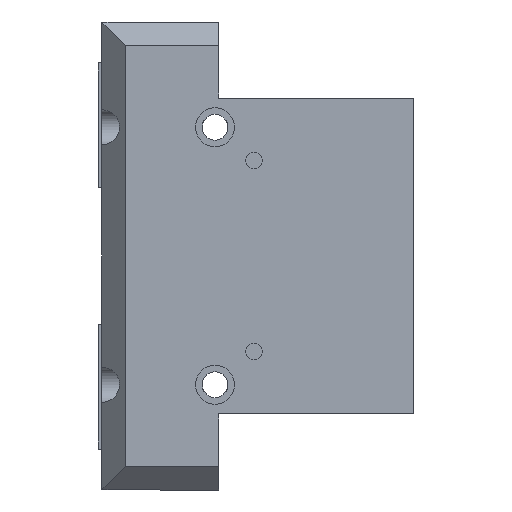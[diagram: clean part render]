
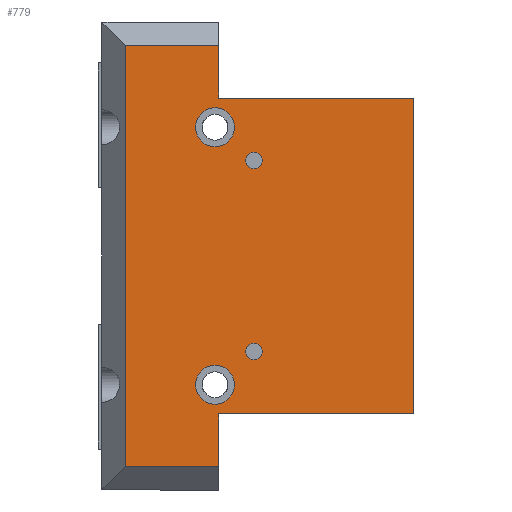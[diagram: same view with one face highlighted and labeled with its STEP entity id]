
A CAD part, left-side view. The second image highlights one B-rep face of the part: STEP entity #779.
In plain terms, the highlighted planar face has unit normal (-1, 0, 0).
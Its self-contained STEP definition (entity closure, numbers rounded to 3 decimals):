
#345 = EDGE_CURVE ( 'NONE', #513, #465, #2498, .T. ) ;
#465 = VERTEX_POINT ( 'NONE', #2683 ) ;
#513 = VERTEX_POINT ( 'NONE', #2612 ) ;
#648 = EDGE_LOOP ( 'NONE', ( #781, #780 ) ) ;
#728 = VERTEX_POINT ( 'NONE', #3147 ) ;
#729 = ORIENTED_EDGE ( 'NONE', *, *, #2226, .F. ) ;
#730 = EDGE_CURVE ( 'NONE', #2261, #2142, #3142, .T. ) ;
#731 = ORIENTED_EDGE ( 'NONE', *, *, #2147, .F. ) ;
#732 = EDGE_LOOP ( 'NONE', ( #733, #741, #740, #734, #772, #774, #827, #833 ) ) ;
#733 = ORIENTED_EDGE ( 'NONE', *, *, #743, .T. ) ;
#734 = ORIENTED_EDGE ( 'NONE', *, *, #771, .T. ) ;
#735 = EDGE_CURVE ( 'NONE', #2157, #2154, #3156, .T. ) ;
#736 = ORIENTED_EDGE ( 'NONE', *, *, #2164, .F. ) ;
#737 = ORIENTED_EDGE ( 'NONE', *, *, #735, .F. ) ;
#738 = VERTEX_POINT ( 'NONE', #3285 ) ;
#739 = VERTEX_POINT ( 'NONE', #3289 ) ;
#740 = ORIENTED_EDGE ( 'NONE', *, *, #770, .T. ) ;
#741 = ORIENTED_EDGE ( 'NONE', *, *, #742, .T. ) ;
#742 = EDGE_CURVE ( 'NONE', #739, #728, #3297, .T. ) ;
#743 = EDGE_CURVE ( 'NONE', #738, #739, #3204, .T. ) ;
#769 = VERTEX_POINT ( 'NONE', #2607 ) ;
#770 = EDGE_CURVE ( 'NONE', #728, #769, #3122, .T. ) ;
#771 = EDGE_CURVE ( 'NONE', #769, #465, #2923, .T. ) ;
#772 = ORIENTED_EDGE ( 'NONE', *, *, #345, .F. ) ;
#774 = ORIENTED_EDGE ( 'NONE', *, *, #857, .F. ) ;
#776 = ORIENTED_EDGE ( 'NONE', *, *, #784, .F. ) ;
#777 = EDGE_CURVE ( 'NONE', #2300, #2320, #3378, .T. ) ;
#778 = EDGE_LOOP ( 'NONE', ( #776, #729 ) ) ;
#779 = ADVANCED_FACE ( 'NONE', ( #3382, #3380, #3387, #3377, #3384 ), #3371, .F. ) ;
#780 = ORIENTED_EDGE ( 'NONE', *, *, #2301, .F. ) ;
#781 = ORIENTED_EDGE ( 'NONE', *, *, #777, .F. ) ;
#782 = EDGE_LOOP ( 'NONE', ( #783, #731 ) ) ;
#783 = ORIENTED_EDGE ( 'NONE', *, *, #730, .F. ) ;
#784 = EDGE_CURVE ( 'NONE', #2303, #2304, #3369, .T. ) ;
#785 = EDGE_LOOP ( 'NONE', ( #737, #736 ) ) ;
#825 = VERTEX_POINT ( 'NONE', #3554 ) ;
#827 = ORIENTED_EDGE ( 'NONE', *, *, #830, .T. ) ;
#828 = EDGE_CURVE ( 'NONE', #825, #738, #3393, .T. ) ;
#830 = EDGE_CURVE ( 'NONE', #858, #825, #3388, .T. ) ;
#833 = ORIENTED_EDGE ( 'NONE', *, *, #828, .T. ) ;
#857 = EDGE_CURVE ( 'NONE', #858, #513, #3463, .T. ) ;
#858 = VERTEX_POINT ( 'NONE', #3462 ) ;
#2142 = VERTEX_POINT ( 'NONE', #5003 ) ;
#2147 = EDGE_CURVE ( 'NONE', #2142, #2261, #5004, .T. ) ;
#2154 = VERTEX_POINT ( 'NONE', #4999 ) ;
#2157 = VERTEX_POINT ( 'NONE', #4991 ) ;
#2164 = EDGE_CURVE ( 'NONE', #2154, #2157, #5000, .T. ) ;
#2226 = EDGE_CURVE ( 'NONE', #2304, #2303, #4943, .T. ) ;
#2261 = VERTEX_POINT ( 'NONE', #5267 ) ;
#2300 = VERTEX_POINT ( 'NONE', #5266 ) ;
#2301 = EDGE_CURVE ( 'NONE', #2320, #2300, #5210, .T. ) ;
#2303 = VERTEX_POINT ( 'NONE', #5215 ) ;
#2304 = VERTEX_POINT ( 'NONE', #5205 ) ;
#2320 = VERTEX_POINT ( 'NONE', #5248 ) ;
#2495 = DIRECTION ( 'NONE',  ( 0., 0., -1. ) ) ;
#2496 = VECTOR ( 'NONE', #2495, 1000. ) ;
#2497 = CARTESIAN_POINT ( 'NONE',  ( -25., 0., 60. ) ) ;
#2498 = LINE ( 'NONE', #2497, #2496 ) ;
#2607 = CARTESIAN_POINT ( 'NONE',  ( -25., 50., -40.5 ) ) ;
#2612 = CARTESIAN_POINT ( 'NONE',  ( -25., 0., 40.5 ) ) ;
#2683 = CARTESIAN_POINT ( 'NONE',  ( -25., 0., -40.5 ) ) ;
#2917 = DIRECTION ( 'NONE',  ( 0., -1., 0. ) ) ;
#2918 = VECTOR ( 'NONE', #2917, 1000. ) ;
#2922 = CARTESIAN_POINT ( 'NONE',  ( -25., 133.668, -40.5 ) ) ;
#2923 = LINE ( 'NONE', #2922, #2918 ) ;
#3110 = DIRECTION ( 'NONE',  ( 0., 0., 1. ) ) ;
#3115 = VECTOR ( 'NONE', #3110, 1000. ) ;
#3122 = LINE ( 'NONE', #3251, #3115 ) ;
#3142 = CIRCLE ( 'NONE', #3298, 5. ) ;
#3147 = CARTESIAN_POINT ( 'NONE',  ( -25., 50., -54. ) ) ;
#3156 = CIRCLE ( 'NONE', #3294, 5. ) ;
#3161 = CARTESIAN_POINT ( 'NONE',  ( -25., 51., -33. ) ) ;
#3201 = DIRECTION ( 'NONE',  ( 0., 0., -1. ) ) ;
#3202 = VECTOR ( 'NONE', #3201, 1000. ) ;
#3203 = CARTESIAN_POINT ( 'NONE',  ( -25., 74., 60. ) ) ;
#3204 = LINE ( 'NONE', #3203, #3202 ) ;
#3207 = DIRECTION ( 'NONE',  ( 0., -1., 0. ) ) ;
#3251 = CARTESIAN_POINT ( 'NONE',  ( -25., 50., -40.5 ) ) ;
#3285 = CARTESIAN_POINT ( 'NONE',  ( -25., 74., 54. ) ) ;
#3286 = DIRECTION ( 'NONE',  ( 0., -1., 0. ) ) ;
#3287 = DIRECTION ( 'NONE',  ( -1., 0., 0. ) ) ;
#3288 = CARTESIAN_POINT ( 'NONE',  ( -25., 51., 33. ) ) ;
#3289 = CARTESIAN_POINT ( 'NONE',  ( -25., 74., -54. ) ) ;
#3291 = DIRECTION ( 'NONE',  ( 0., -1., 0. ) ) ;
#3292 = DIRECTION ( 'NONE',  ( -1., 0., 0. ) ) ;
#3294 = AXIS2_PLACEMENT_3D ( 'NONE', #3288, #3287, #3286 ) ;
#3295 = VECTOR ( 'NONE', #3207, 1000. ) ;
#3296 = CARTESIAN_POINT ( 'NONE',  ( -25., 80., -54. ) ) ;
#3297 = LINE ( 'NONE', #3296, #3295 ) ;
#3298 = AXIS2_PLACEMENT_3D ( 'NONE', #3161, #3292, #3291 ) ;
#3364 = DIRECTION ( 'NONE',  ( 0., -1., 0. ) ) ;
#3365 = DIRECTION ( 'NONE',  ( -1., 0., 0. ) ) ;
#3366 = AXIS2_PLACEMENT_3D ( 'NONE', #3379, #3365, #3364 ) ;
#3367 = DIRECTION ( 'NONE',  ( 0., 1., 0. ) ) ;
#3369 = CIRCLE ( 'NONE', #3366, 2.1 ) ;
#3371 = PLANE ( 'NONE',  #3381 ) ;
#3373 = DIRECTION ( 'NONE',  ( 0., -1., 0. ) ) ;
#3374 = DIRECTION ( 'NONE',  ( -1., 0., 0. ) ) ;
#3375 = CARTESIAN_POINT ( 'NONE',  ( -25., 41., 24.5 ) ) ;
#3376 = AXIS2_PLACEMENT_3D ( 'NONE', #3375, #3374, #3373 ) ;
#3377 = FACE_BOUND ( 'NONE', #785, .T. ) ;
#3378 = CIRCLE ( 'NONE', #3376, 2.1 ) ;
#3379 = CARTESIAN_POINT ( 'NONE',  ( -25., 41., -24.5 ) ) ;
#3380 = FACE_BOUND ( 'NONE', #778, .T. ) ;
#3381 = AXIS2_PLACEMENT_3D ( 'NONE', #3385, #3383, #3367 ) ;
#3382 = FACE_BOUND ( 'NONE', #648, .T. ) ;
#3383 = DIRECTION ( 'NONE',  ( 1., 0., 0. ) ) ;
#3384 = FACE_OUTER_BOUND ( 'NONE', #732, .T. ) ;
#3385 = CARTESIAN_POINT ( 'NONE',  ( -25., 80., 60. ) ) ;
#3387 = FACE_BOUND ( 'NONE', #782, .T. ) ;
#3388 = LINE ( 'NONE', #3487, #3486 ) ;
#3390 = DIRECTION ( 'NONE',  ( 0., 1., 0. ) ) ;
#3391 = VECTOR ( 'NONE', #3390, 1000. ) ;
#3392 = CARTESIAN_POINT ( 'NONE',  ( -25., 80., 54. ) ) ;
#3393 = LINE ( 'NONE', #3392, #3391 ) ;
#3462 = CARTESIAN_POINT ( 'NONE',  ( -25., 50., 40.5 ) ) ;
#3463 = LINE ( 'NONE', #3465, #3549 ) ;
#3465 = CARTESIAN_POINT ( 'NONE',  ( -25., 133.668, 40.5 ) ) ;
#3485 = DIRECTION ( 'NONE',  ( 0., 0., 1. ) ) ;
#3486 = VECTOR ( 'NONE', #3485, 1000. ) ;
#3487 = CARTESIAN_POINT ( 'NONE',  ( -25., 50., 60. ) ) ;
#3548 = DIRECTION ( 'NONE',  ( 0., -1., 0. ) ) ;
#3549 = VECTOR ( 'NONE', #3548, 1000. ) ;
#3554 = CARTESIAN_POINT ( 'NONE',  ( -25., 50., 54. ) ) ;
#4830 = AXIS2_PLACEMENT_3D ( 'NONE', #4949, #4937, #4936 ) ;
#4911 = DIRECTION ( 'NONE',  ( 0., -1., 0. ) ) ;
#4912 = DIRECTION ( 'NONE',  ( -1., 0., 0. ) ) ;
#4914 = AXIS2_PLACEMENT_3D ( 'NONE', #4923, #4912, #4911 ) ;
#4923 = CARTESIAN_POINT ( 'NONE',  ( -25., 51., 33. ) ) ;
#4936 = DIRECTION ( 'NONE',  ( 0., -1., 0. ) ) ;
#4937 = DIRECTION ( 'NONE',  ( -1., 0., 0. ) ) ;
#4943 = CIRCLE ( 'NONE', #4830, 2.1 ) ;
#4949 = CARTESIAN_POINT ( 'NONE',  ( -25., 41., -24.5 ) ) ;
#4991 = CARTESIAN_POINT ( 'NONE',  ( -25., 46., 33. ) ) ;
#4996 = DIRECTION ( 'NONE',  ( 0., -1., 0. ) ) ;
#4997 = DIRECTION ( 'NONE',  ( -1., 0., 0. ) ) ;
#4998 = AXIS2_PLACEMENT_3D ( 'NONE', #5011, #4997, #4996 ) ;
#4999 = CARTESIAN_POINT ( 'NONE',  ( -25., 56., 33. ) ) ;
#5000 = CIRCLE ( 'NONE', #4914, 5. ) ;
#5003 = CARTESIAN_POINT ( 'NONE',  ( -25., 56., -33. ) ) ;
#5004 = CIRCLE ( 'NONE', #4998, 5. ) ;
#5011 = CARTESIAN_POINT ( 'NONE',  ( -25., 51., -33. ) ) ;
#5205 = CARTESIAN_POINT ( 'NONE',  ( -25., 43.1, -24.5 ) ) ;
#5210 = CIRCLE ( 'NONE', #5220, 2.1 ) ;
#5215 = CARTESIAN_POINT ( 'NONE',  ( -25., 38.9, -24.5 ) ) ;
#5220 = AXIS2_PLACEMENT_3D ( 'NONE', #5262, #5257, #5256 ) ;
#5248 = CARTESIAN_POINT ( 'NONE',  ( -25., 43.1, 24.5 ) ) ;
#5256 = DIRECTION ( 'NONE',  ( 0., -1., 0. ) ) ;
#5257 = DIRECTION ( 'NONE',  ( -1., 0., 0. ) ) ;
#5262 = CARTESIAN_POINT ( 'NONE',  ( -25., 41., 24.5 ) ) ;
#5266 = CARTESIAN_POINT ( 'NONE',  ( -25., 38.9, 24.5 ) ) ;
#5267 = CARTESIAN_POINT ( 'NONE',  ( -25., 46., -33. ) ) ;
